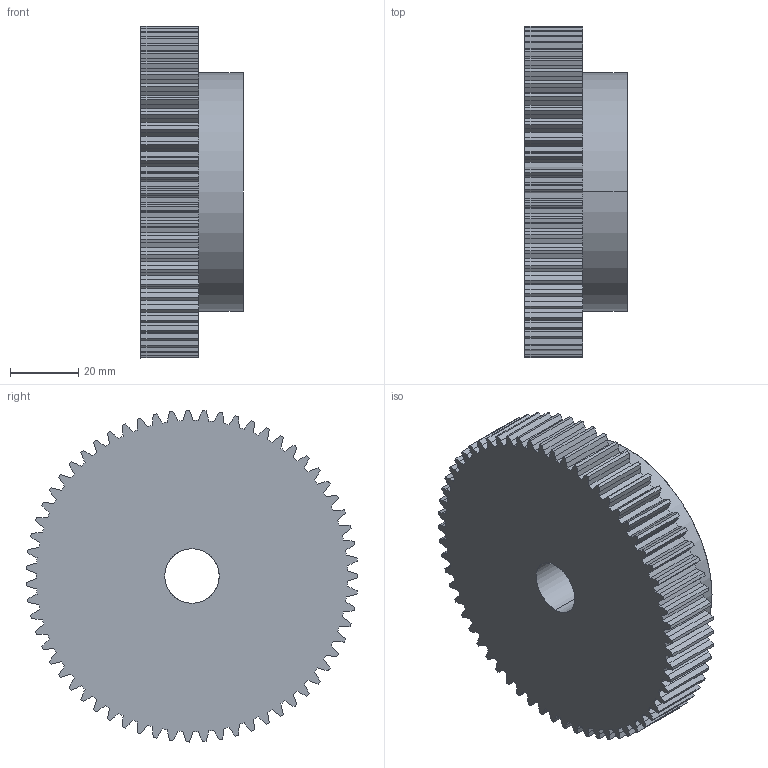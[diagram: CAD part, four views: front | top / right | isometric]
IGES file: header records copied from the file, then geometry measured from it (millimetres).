
Start section: SolidWorks IGES file using analytic representation for surfaces
Global section: file name: C:\Users\Honza\Desktop\Matis (Hotove)\Èelní ozubená kola\PM\MODUL 1,5\PM 27063.IGS; native system: SolidWorks 2010; preprocessor: SolidWorks 2010; author: Honza; date: 130924.140914; units: millimetre
Bounding box: 30 x 97.46 x 97.49 mm (x, y, z)
Surface area: 27432 mm2 (no closed solid volume)
Topology: 0 solids, 0 shells, 385 faces, 2476 edges, 2476 vertices
Faces by surface type: bspline 255, revolution 130
